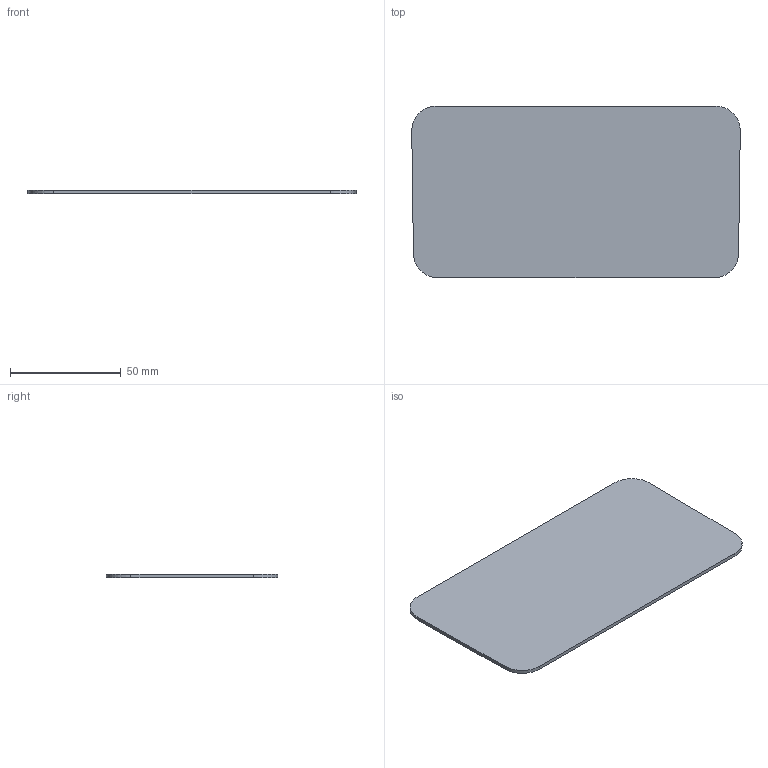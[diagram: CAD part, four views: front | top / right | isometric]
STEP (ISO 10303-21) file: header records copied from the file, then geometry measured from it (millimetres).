
FILE_DESCRIPTION (( 'STEP AP214' ), '1' );
FILE_NAME ('Tapeta lateral.STEP', '2016-09-22T09:38:22', ( 'aaa' ), ( '' ), 'SwSTEP 2.0', 'SolidWorks 2013', '' );
FILE_SCHEMA (( 'AUTOMOTIVE_DESIGN' ));
Length unit declared in the file: millimetre
Products named in the file (1): Tapeta lateral
Bounding box: 148.5 x 77.5 x 1.63 mm (x, y, z)
Volume: 18495.7 mm3; surface area: 23397.6 mm2
Topology: 1 solids, 1 shells, 11 faces, 27 edges, 18 vertices
Faces by surface type: plane 6, cylinder 5
Entity records: 365 total; most frequent: DIRECTION 61, CARTESIAN_POINT 57, ORIENTED_EDGE 54, EDGE_CURVE 27, AXIS2_PLACEMENT_3D 22, VERTEX_POINT 18, VECTOR 17, LINE 17
